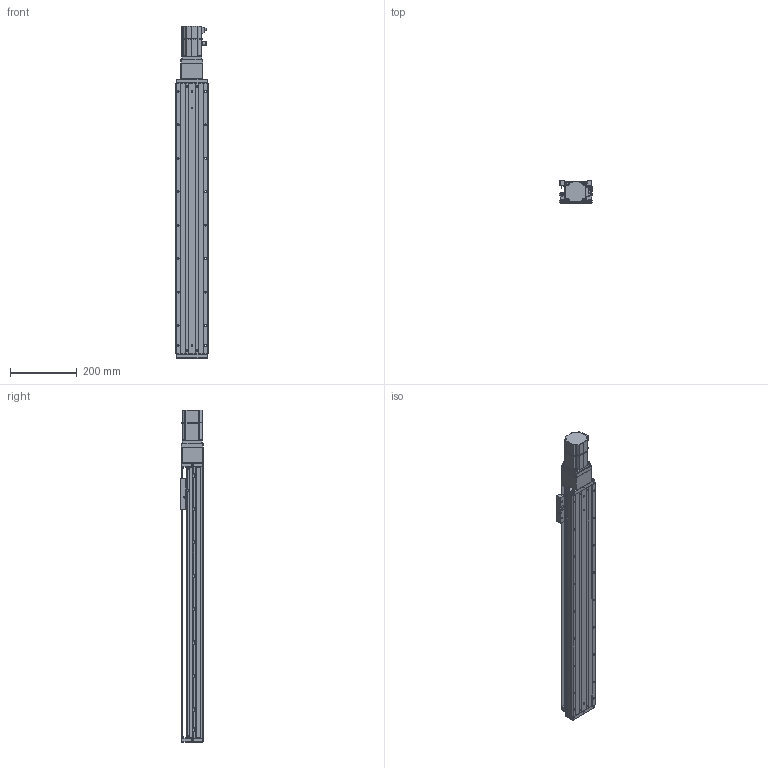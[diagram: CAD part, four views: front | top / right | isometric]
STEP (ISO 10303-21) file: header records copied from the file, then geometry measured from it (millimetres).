
FILE_DESCRIPTION (( 'STEP AP203' ), '1' );
FILE_NAME ('KTHA100-650-BC-M20-C4L.step', '2022-04-26T01:45:14', ( '微软用户' ), ( '微软中国' ), 'SwSTEP 2.0', 'SolidWorks 2020', '' );
FILE_SCHEMA (( 'CONFIG_CONTROL_DESIGN' ));
Length unit declared in the file: millimetre
Products named in the file (18): GBT70.1 M5℅16; KTHA100-650-BC-M20-C4L; GB¨uT 70.2-M3¡Á5_M3¡Á6; CTHA60-016; EE_SX911P_R; GBT 70.3-M3℅6; CTHA60-017; _X2_4E0983F1_X0_200W_1; KTHA100-001_810; CTHA60-021; CTHA86-013; KTHA100-002; GBT77-2000 M3×3; CTHA86-027; KTHA100-004; GBT 70.1-M3℅6; CTHA86-006-1_CTHA86-006-2; KTHA100-005
Assembly tree (56 placements, depth 2):
  KTHA100-650-BC-M20-C4L
    KTHA100-001_810
    KTHA100-002
    KTHA100-004
    KTHA100-005
    GB¨uT 70.2-M3¡Á5_M3¡Á6  x6
    EE_SX911P_R  x3
    CTHA60-017  x3
    CTHA60-021  x2
    GBT77-2000 M3×3  x6
    GBT 70.1-M3℅6  x6
    GBT70.1 M5℅16  x14
    CTHA60-016  x2
    GBT 70.3-M3℅6  x6
    _X2_4E0983F1_X0_200W_1
    CTHA86-013
    CTHA86-027
    CTHA86-006-1_CTHA86-006-2
Bounding box: 98.82 x 68 x 992.5 mm (x, y, z)
Volume: 3702807.3 mm3; surface area: 618895.4 mm2
Topology: 59 solids, 59 shells, 2427 faces, 5800 edges, 3580 vertices
Faces by surface type: plane 1239, cylinder 667, cone 332, torus 104, bspline 69, sphere 16
Entity records: 42244 total; most frequent: CARTESIAN_POINT 8087, DIRECTION 6659, ORIENTED_EDGE 6368, EDGE_CURVE 3184, AXIS2_PLACEMENT_3D 2324, VECTOR 2011, LINE 2011, VERTEX_POINT 1998
